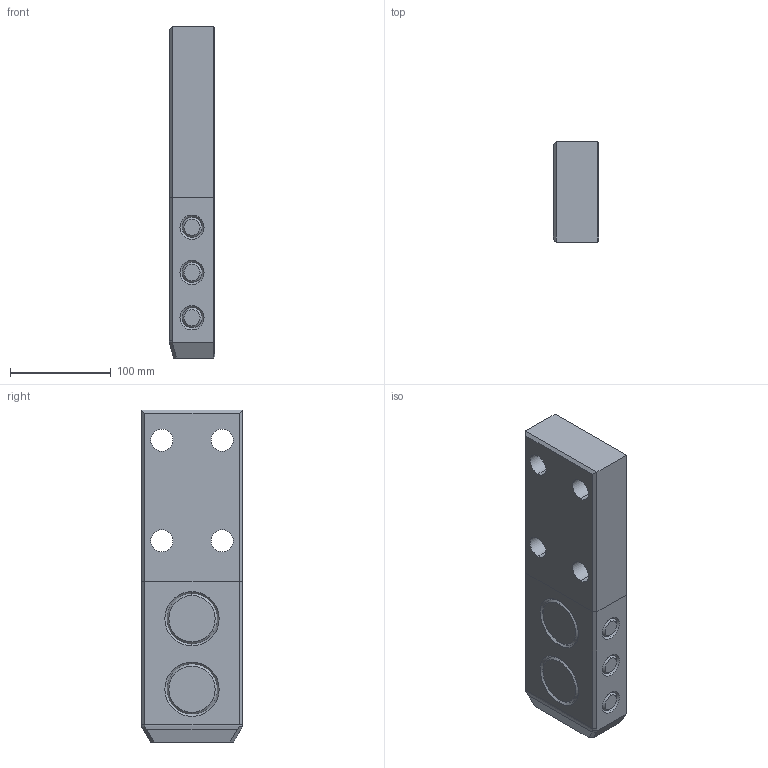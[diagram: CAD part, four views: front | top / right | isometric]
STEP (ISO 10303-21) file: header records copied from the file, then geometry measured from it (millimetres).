
FILE_DESCRIPTION((''),'2;1');
FILE_NAME('','2010-08-30T19:11:02+09:00',('misumi'),(''),'M/STEP i/f 1R2-14','CADmeister v5.1','');
FILE_SCHEMA(('AUTOMOTIVE_DESIGN'));
Length unit declared in the file: millimetre
Products named in the file (1): OGZ100-330
Bounding box: 45 x 100 x 330 mm (x, y, z)
Volume: 1360743.4 mm3; surface area: 116093.5 mm2
Topology: 1 solids, 1 shells, 93 faces, 202 edges, 124 vertices
Faces by surface type: plane 38, cone 32, cylinder 19, bspline 4
Entity records: 4404 total; most frequent: CARTESIAN_POINT 1428, DIRECTION 424, ORIENTED_EDGE 404, COLOUR_RGB 213, CURVE_STYLE 208, PRESENTATION_STYLE_ASSIGNMENT 207, OVER_RIDING_STYLED_ITEM 206, EDGE_CURVE 202
